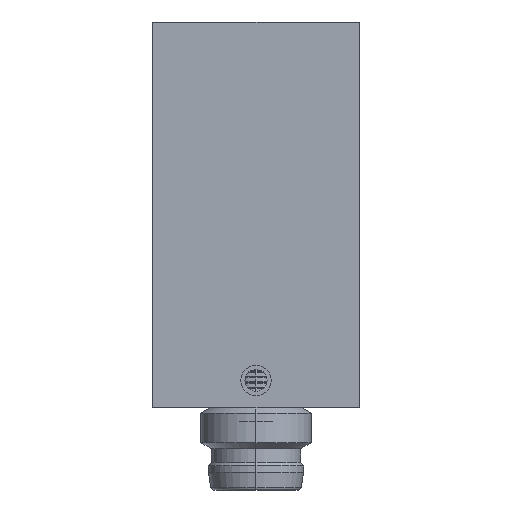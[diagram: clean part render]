
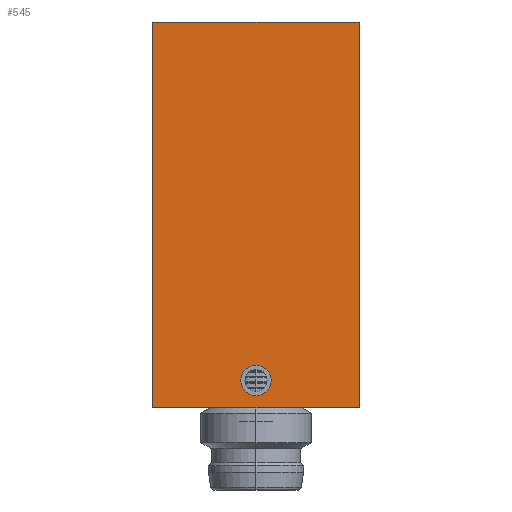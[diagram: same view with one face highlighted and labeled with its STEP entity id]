
A CAD part, left-side view. The second image highlights one B-rep face of the part: STEP entity #545.
In plain terms, the highlighted planar face has unit normal (-1, 0, 0).
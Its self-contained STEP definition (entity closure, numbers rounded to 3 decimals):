
#545=ADVANCED_FACE('0:5114',(#1143,#1144),#1145,.T.);
#1143=FACE_OUTER_BOUND('',#1805,.T.);
#1144=FACE_BOUND('',#1806,.T.);
#1145=PLANE('',#1807);
#1805=EDGE_LOOP('',(#3242,#3243,#3244,#3245));
#1806=EDGE_LOOP('',(#3246,#3247));
#1807=AXIS2_PLACEMENT_3D('',#3248,#3249,#3250);
#3242=ORIENTED_EDGE('',*,*,#4190,.F.);
#3243=ORIENTED_EDGE('',*,*,#4191,.F.);
#3244=ORIENTED_EDGE('',*,*,#4192,.F.);
#3245=ORIENTED_EDGE('',*,*,#4193,.F.);
#3246=ORIENTED_EDGE('',*,*,#4178,.T.);
#3247=ORIENTED_EDGE('',*,*,#3740,.T.);
#3248=CARTESIAN_POINT('',(-176.5,5.5,15.5));
#3249=DIRECTION('',(-1.0,0.,0.0));
#3250=DIRECTION('',(0.0,0.0,1.0));
#3740=EDGE_CURVE('0:5594',#4447,#4451,#4453,.T.);
#4178=EDGE_CURVE('0:5594',#4451,#4447,#5071,.T.);
#4190=EDGE_CURVE('0:5621',#5089,#5090,#5091,.T.);
#4191=EDGE_CURVE('0:5624',#5092,#5089,#5093,.T.);
#4192=EDGE_CURVE('0:5627',#5094,#5092,#5095,.T.);
#4193=EDGE_CURVE('0:5630',#5090,#5094,#5096,.T.);
#4447=VERTEX_POINT('',#5418);
#4451=VERTEX_POINT('',#5423);
#4453=CIRCLE('',#5426,1.1);
#5071=CIRCLE('',#6169,1.1);
#5089=VERTEX_POINT('',#6194);
#5090=VERTEX_POINT('',#6195);
#5091=LINE('',#6196,#6197);
#5092=VERTEX_POINT('',#6198);
#5093=LINE('',#6199,#6200);
#5094=VERTEX_POINT('',#6201);
#5095=LINE('',#6202,#6203);
#5096=LINE('',#6204,#6205);
#5418=CARTESIAN_POINT('',(-176.5,1.1,2.0));
#5423=CARTESIAN_POINT('',(-176.5,-1.1,2.0));
#5426=AXIS2_PLACEMENT_3D('',#6470,#6471,#6472);
#6169=AXIS2_PLACEMENT_3D('',#7117,#7118,#7119);
#6194=CARTESIAN_POINT('',(-176.5,-7.5,28.0));
#6195=CARTESIAN_POINT('',(-176.5,-7.5,0.0));
#6196=CARTESIAN_POINT('',(-176.5,-7.5,0.0));
#6197=VECTOR('',#7130,0.001);
#6198=CARTESIAN_POINT('',(-176.5,7.5,28.0));
#6199=CARTESIAN_POINT('',(-176.5,-7.5,28.0));
#6200=VECTOR('',#7131,0.001);
#6201=CARTESIAN_POINT('',(-176.5,7.5,0.0));
#6202=CARTESIAN_POINT('',(-176.5,7.5,28.0));
#6203=VECTOR('',#7132,0.001);
#6204=CARTESIAN_POINT('',(-176.5,7.5,0.0));
#6205=VECTOR('',#7133,0.001);
#6470=CARTESIAN_POINT('',(-176.5,0.,2.0));
#6471=DIRECTION('',(1.0,0.,0.0));
#6472=DIRECTION('',(0.,1.0,0.0));
#7117=CARTESIAN_POINT('',(-176.5,0.,2.0));
#7118=DIRECTION('',(1.0,0.,0.0));
#7119=DIRECTION('',(0.,1.0,0.0));
#7130=DIRECTION('',(0.,0.,-1.0));
#7131=DIRECTION('',(0.,-1.0,0.0));
#7132=DIRECTION('',(0.0,0.0,1.0));
#7133=DIRECTION('',(0.,1.0,0.0));
